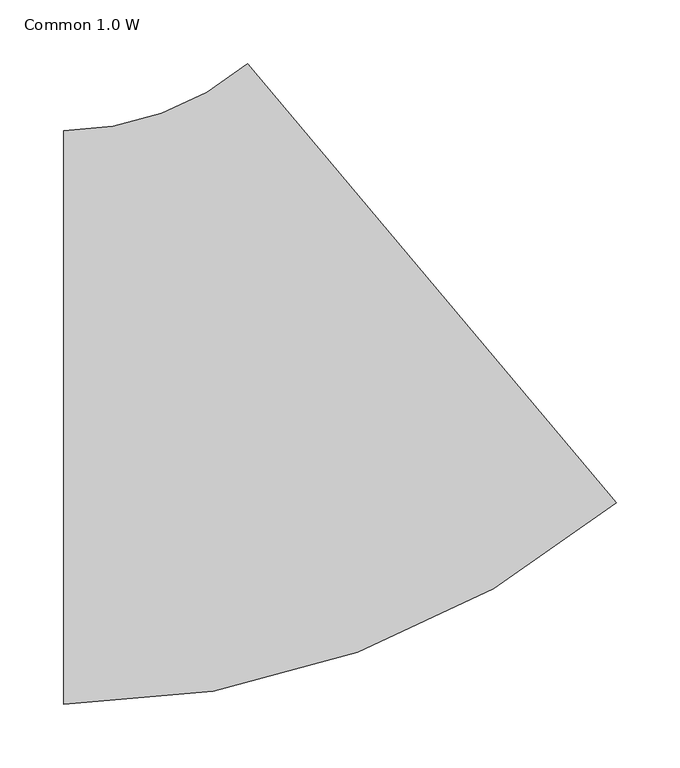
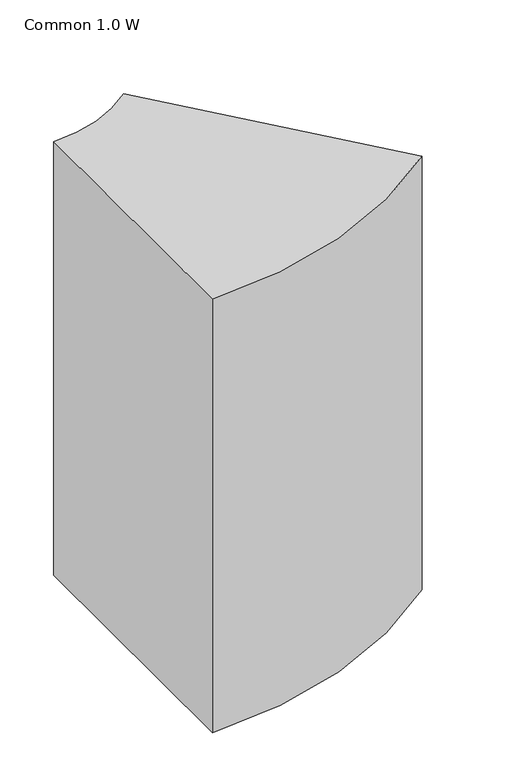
"""IFC4 building model written with IfcOpenShell, lengths in millimetres: duct fitting geometry, 011_角型エルボ - 半径 : Common 1.0 W."""

from ifc_helpers import new_model, si_unit, point, frame, frame_2d, origin, place, context, project, spatial, polyline, circle_curve, trimmed, segment, composite_curve, outline, extrude, source, transform, mapped, element, save


def common_1_0_w_a4c52cff(model_context):
    return source(origin(), model_context, "Body", "SweptSolid", [
        extrude(outline(composite_curve([segment(trimmed(circle_curve(frame_2d((-163.7866054, 450.0)), 675.0), [point((270.0950311, -67.0799991))], [point((-163.7866054, -225.0))], False, "CARTESIAN"), True, "CONTINUOUS"), segment(polyline([(-163.7866054, -225.0), (-163.7866054, 225.0)]), True, "CONTINUOUS"), segment(trimmed(circle_curve(frame_2d((-163.7866054, 450.0)), 225.0), [point((-163.7866054, 225.0))], [point((-19.1593932, 277.6400003))], True, "CARTESIAN"), True, "CONTINUOUS"), segment(polyline([(-19.1593932, 277.6400003), (270.0950311, -67.0799991)]), True, "CONTINUOUS")], self_intersect=False)), frame((0.0, 0.0, -375.0), z_axis=(0.0, 0.0, 1.0), x_axis=(1.0, 0.0, 0.0)), (0.0, 0.0, 1.0), 750.0),
    ])


if __name__ == "__main__":
    model = new_model("IFC4")
    model_context = context("Model", 3, world=origin())
    ifc_project = project(units=[si_unit("LENGTHUNIT", "METRE", prefix="MILLI")], contexts=[model_context])
    site = spatial("IfcSite", under=ifc_project)
    building = spatial("IfcBuilding", under=site)
    placement = place(None, origin())
    common_1_0_w_shape = common_1_0_w_a4c52cff(model_context)
    element("IfcDuctFitting", 1, ObjectType="011_角型エルボ - 半径 : Common 1.0 W", at=placement, inside=building, context=model_context, shape_type="MappedRepresentation", body=[
        mapped(common_1_0_w_shape, transform((0.0, 0.0, 0.0), x_axis=(1.0, 0.0, 0.0), y_axis=(0.0, 1.0, 0.0), z_axis=(0.0, 0.0, 1.0))),
    ])
    save(model, "model.ifc")
